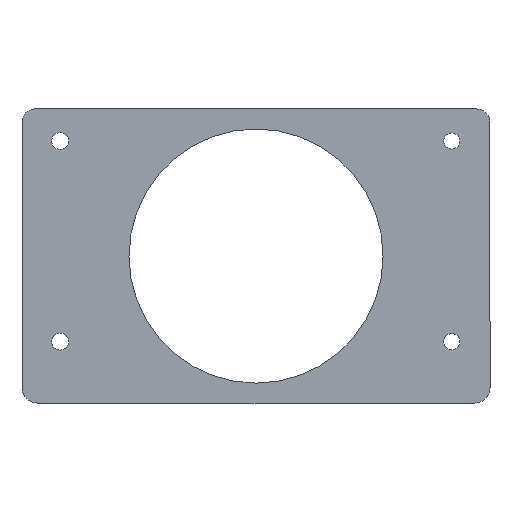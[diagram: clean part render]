
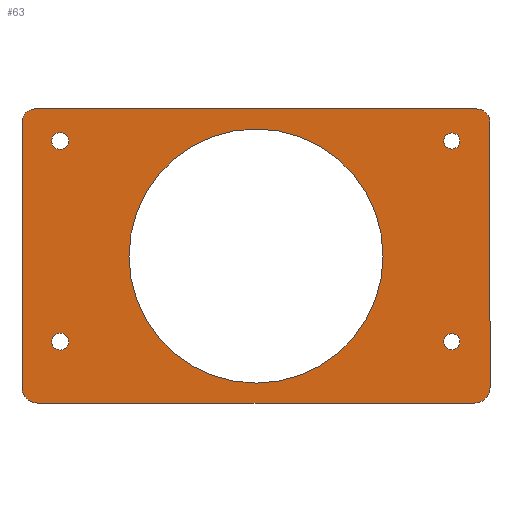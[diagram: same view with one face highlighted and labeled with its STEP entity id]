
A CAD part, front view. The second image highlights one B-rep face of the part: STEP entity #63.
In plain terms, the highlighted planar face has unit normal (0, -1, 0).
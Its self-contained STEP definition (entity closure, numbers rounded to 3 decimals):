
#63 = ADVANCED_FACE( '', ( #130, #131, #132, #133, #134, #135 ), #136, .T. );
#130 = FACE_OUTER_BOUND( '', #197, .T. );
#131 = FACE_BOUND( '', #198, .T. );
#132 = FACE_BOUND( '', #199, .T. );
#133 = FACE_BOUND( '', #200, .T. );
#134 = FACE_BOUND( '', #201, .T. );
#135 = FACE_BOUND( '', #202, .T. );
#136 = PLANE( '', #203 );
#197 = EDGE_LOOP( '', ( #313, #314, #315, #316, #317, #318, #319, #320 ) );
#198 = EDGE_LOOP( '', ( #321 ) );
#199 = EDGE_LOOP( '', ( #322 ) );
#200 = EDGE_LOOP( '', ( #323 ) );
#201 = EDGE_LOOP( '', ( #324 ) );
#202 = EDGE_LOOP( '', ( #325 ) );
#203 = AXIS2_PLACEMENT_3D( '', #326, #327, #328 );
#313 = ORIENTED_EDGE( '', *, *, #378, .T. );
#314 = ORIENTED_EDGE( '', *, *, #364, .T. );
#315 = ORIENTED_EDGE( '', *, *, #360, .T. );
#316 = ORIENTED_EDGE( '', *, *, #347, .T. );
#317 = ORIENTED_EDGE( '', *, *, #368, .T. );
#318 = ORIENTED_EDGE( '', *, *, #342, .T. );
#319 = ORIENTED_EDGE( '', *, *, #380, .T. );
#320 = ORIENTED_EDGE( '', *, *, #355, .T. );
#321 = ORIENTED_EDGE( '', *, *, #386, .F. );
#322 = ORIENTED_EDGE( '', *, *, #353, .F. );
#323 = ORIENTED_EDGE( '', *, *, #384, .F. );
#324 = ORIENTED_EDGE( '', *, *, #382, .F. );
#325 = ORIENTED_EDGE( '', *, *, #387, .T. );
#326 = CARTESIAN_POINT( '', ( -171.873, 0., 1925.788 ) );
#327 = DIRECTION( '', ( 0., -1., 0. ) );
#328 = DIRECTION( '', ( 0., 0., -1. ) );
#342 = EDGE_CURVE( '', #391, #392, #393, .T. );
#347 = EDGE_CURVE( '', #400, #401, #402, .T. );
#353 = EDGE_CURVE( '', #411, #411, #412, .T. );
#355 = EDGE_CURVE( '', #414, #415, #416, .T. );
#360 = EDGE_CURVE( '', #423, #400, #424, .T. );
#364 = EDGE_CURVE( '', #429, #423, #430, .T. );
#368 = EDGE_CURVE( '', #401, #391, #435, .T. );
#378 = EDGE_CURVE( '', #415, #429, #449, .T. );
#380 = EDGE_CURVE( '', #392, #414, #451, .T. );
#382 = EDGE_CURVE( '', #453, #453, #454, .T. );
#384 = EDGE_CURVE( '', #456, #456, #457, .T. );
#386 = EDGE_CURVE( '', #459, #459, #460, .T. );
#387 = EDGE_CURVE( '', #461, #461, #462, .T. );
#391 = VERTEX_POINT( '', #466 );
#392 = VERTEX_POINT( '', #467 );
#393 = LINE( '', #468, #469 );
#400 = VERTEX_POINT( '', #479 );
#401 = VERTEX_POINT( '', #480 );
#402 = LINE( '', #481, #482 );
#411 = VERTEX_POINT( '', #494 );
#412 = CIRCLE( '', #495, 3. );
#414 = VERTEX_POINT( '', #497 );
#415 = VERTEX_POINT( '', #498 );
#416 = LINE( '', #499, #500 );
#423 = VERTEX_POINT( '', #510 );
#424 = CIRCLE( '', #511, 5.928 );
#429 = VERTEX_POINT( '', #517 );
#430 = LINE( '', #518, #519 );
#435 = CIRCLE( '', #526, 5.85 );
#449 = CIRCLE( '', #540, 5. );
#451 = CIRCLE( '', #542, 4.978 );
#453 = VERTEX_POINT( '', #544 );
#454 = CIRCLE( '', #545, 3.175 );
#456 = VERTEX_POINT( '', #547 );
#457 = CIRCLE( '', #548, 3. );
#459 = VERTEX_POINT( '', #550 );
#460 = CIRCLE( '', #551, 3.175 );
#461 = VERTEX_POINT( '', #552 );
#462 = CIRCLE( '', #553, 47.5 );
#466 = CARTESIAN_POINT( '', ( -1.875, 0., 1826.57 ) );
#467 = CARTESIAN_POINT( '', ( -1.875, 0., 1925.81 ) );
#468 = CARTESIAN_POINT( '', ( -1.875, 0., 1826.57 ) );
#469 = VECTOR( '', #556, 1000. );
#479 = CARTESIAN_POINT( '', ( -171.022, 0., 1820.788 ) );
#480 = CARTESIAN_POINT( '', ( -7.725, 0., 1820.788 ) );
#481 = CARTESIAN_POINT( '', ( -171.022, 0., 1820.788 ) );
#482 = VECTOR( '', #560, 1000. );
#494 = CARTESIAN_POINT( '', ( -13.125, 0., 1843.789 ) );
#495 = AXIS2_PLACEMENT_3D( '', #567, #568, #569 );
#497 = CARTESIAN_POINT( '', ( -6.853, 0., 1930.788 ) );
#498 = CARTESIAN_POINT( '', ( -171.873, 0., 1930.788 ) );
#499 = CARTESIAN_POINT( '', ( -171.873, 0., 1930.788 ) );
#500 = VECTOR( '', #570, 1000. );
#510 = CARTESIAN_POINT( '', ( -176.873, 0., 1825.765 ) );
#511 = AXIS2_PLACEMENT_3D( '', #574, #575, #576 );
#517 = CARTESIAN_POINT( '', ( -176.873, 0., 1925.765 ) );
#518 = CARTESIAN_POINT( '', ( -176.873, 0., 1925.765 ) );
#519 = VECTOR( '', #581, 1000. );
#526 = AXIS2_PLACEMENT_3D( '', #584, #585, #586 );
#540 = AXIS2_PLACEMENT_3D( '', #608, #609, #610 );
#542 = AXIS2_PLACEMENT_3D( '', #611, #612, #613 );
#544 = CARTESIAN_POINT( '', ( -159.448, 0., 1918.788 ) );
#545 = AXIS2_PLACEMENT_3D( '', #614, #615, #616 );
#547 = CARTESIAN_POINT( '', ( -13.125, 0., 1918.788 ) );
#548 = AXIS2_PLACEMENT_3D( '', #617, #618, #619 );
#550 = CARTESIAN_POINT( '', ( -159.448, 0., 1843.789 ) );
#551 = AXIS2_PLACEMENT_3D( '', #620, #621, #622 );
#552 = CARTESIAN_POINT( '', ( -41.863, 0., 1875.765 ) );
#553 = AXIS2_PLACEMENT_3D( '', #623, #624, #625 );
#556 = DIRECTION( '', ( 0., 0., 1. ) );
#560 = DIRECTION( '', ( 1., 0., 0. ) );
#567 = CARTESIAN_POINT( '', ( -16.125, 0., 1843.789 ) );
#568 = DIRECTION( '', ( 0., -1., 0. ) );
#569 = DIRECTION( '', ( 1., 0., 0. ) );
#570 = DIRECTION( '', ( -1., 0., 0. ) );
#574 = CARTESIAN_POINT( '', ( -171.022, 0., 1826.716 ) );
#575 = DIRECTION( '', ( 0., -1., 0. ) );
#576 = DIRECTION( '', ( 1., 0., 0. ) );
#581 = DIRECTION( '', ( 0., 0., -1. ) );
#584 = CARTESIAN_POINT( '', ( -7.725, 0., 1826.638 ) );
#585 = DIRECTION( '', ( 0., -1., 0. ) );
#586 = DIRECTION( '', ( 1., 0., 0. ) );
#608 = CARTESIAN_POINT( '', ( -171.873, 0., 1925.788 ) );
#609 = DIRECTION( '', ( 0., -1., 0. ) );
#610 = DIRECTION( '', ( 1., 0., 0. ) );
#611 = CARTESIAN_POINT( '', ( -6.853, 0., 1925.81 ) );
#612 = DIRECTION( '', ( 0., -1., 0. ) );
#613 = DIRECTION( '', ( -1., 0., 0. ) );
#614 = CARTESIAN_POINT( '', ( -162.623, 0., 1918.788 ) );
#615 = DIRECTION( '', ( 0., -1., 0. ) );
#616 = DIRECTION( '', ( 1., 0., 0. ) );
#617 = CARTESIAN_POINT( '', ( -16.125, 0., 1918.788 ) );
#618 = DIRECTION( '', ( 0., -1., 0. ) );
#619 = DIRECTION( '', ( 1., 0., 0. ) );
#620 = CARTESIAN_POINT( '', ( -162.623, 0., 1843.789 ) );
#621 = DIRECTION( '', ( 0., -1., 0. ) );
#622 = DIRECTION( '', ( 1., 0., 0. ) );
#623 = CARTESIAN_POINT( '', ( -89.363, 0., 1875.765 ) );
#624 = DIRECTION( '', ( 0., 1., 0. ) );
#625 = DIRECTION( '', ( 1., 0., 0. ) );
